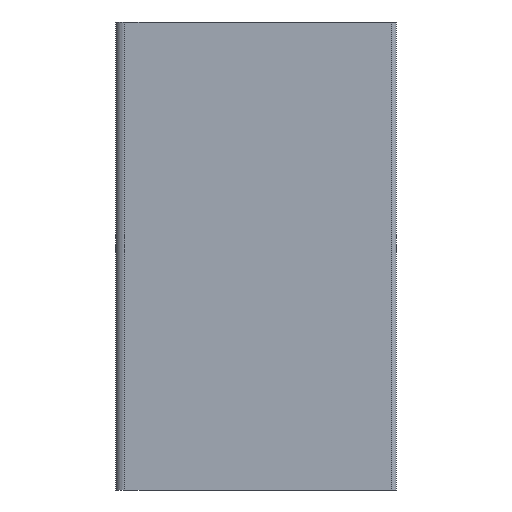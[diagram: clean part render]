
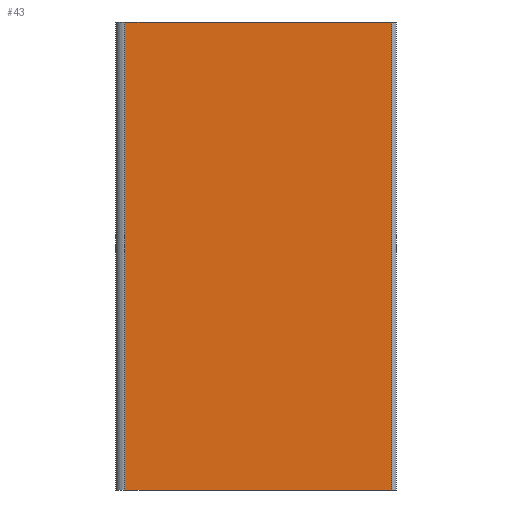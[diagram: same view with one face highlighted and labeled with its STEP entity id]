
A CAD part, left-side view. The second image highlights one B-rep face of the part: STEP entity #43.
In plain terms, the highlighted planar face has unit normal (-1, 0, 0).
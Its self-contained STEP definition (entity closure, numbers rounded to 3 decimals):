
#32 = DIRECTION ( 'NONE',  ( 0., 0., -1. ) ) ;
#43 = ADVANCED_FACE ( 'NONE', ( #260 ), #66, .F. ) ;
#44 = DIRECTION ( 'NONE',  ( 0., 0., -1. ) ) ;
#66 = PLANE ( 'NONE',  #365 ) ;
#74 = CARTESIAN_POINT ( 'NONE',  ( 144.826, 216.258, 0. ) ) ;
#98 = ORIENTED_EDGE ( 'NONE', *, *, #631, .T. ) ;
#104 = VECTOR ( 'NONE', #44, 1000. ) ;
#138 = DIRECTION ( 'NONE',  ( 1., 0., 0. ) ) ;
#199 = CARTESIAN_POINT ( 'NONE',  ( 144.826, 216.258, 0. ) ) ;
#200 = CARTESIAN_POINT ( 'NONE',  ( 144.826, 273.258, 100. ) ) ;
#216 = LINE ( 'NONE', #291, #608 ) ;
#218 = CARTESIAN_POINT ( 'NONE',  ( 144.826, 216.258, 100. ) ) ;
#230 = VECTOR ( 'NONE', #294, 1000. ) ;
#260 = FACE_OUTER_BOUND ( 'NONE', #286, .T. ) ;
#267 = EDGE_CURVE ( 'NONE', #359, #323, #438, .T. ) ;
#286 = EDGE_LOOP ( 'NONE', ( #431, #588, #536, #98 ) ) ;
#289 = CARTESIAN_POINT ( 'NONE',  ( 144.826, 273.258, 0. ) ) ;
#291 = CARTESIAN_POINT ( 'NONE',  ( 144.826, 216.258, 100. ) ) ;
#294 = DIRECTION ( 'NONE',  ( 0., -1., 0. ) ) ;
#323 = VERTEX_POINT ( 'NONE', #74 ) ;
#359 = VERTEX_POINT ( 'NONE', #289 ) ;
#365 = AXIS2_PLACEMENT_3D ( 'NONE', #218, #138, #527 ) ;
#369 = EDGE_CURVE ( 'NONE', #519, #532, #518, .T. ) ;
#402 = DIRECTION ( 'NONE',  ( 0., -1., 0. ) ) ;
#431 = ORIENTED_EDGE ( 'NONE', *, *, #267, .T. ) ;
#438 = LINE ( 'NONE', #199, #573 ) ;
#448 = CARTESIAN_POINT ( 'NONE',  ( 144.826, 216.258, 100. ) ) ;
#518 = LINE ( 'NONE', #657, #230 ) ;
#519 = VERTEX_POINT ( 'NONE', #655 ) ;
#520 = EDGE_CURVE ( 'NONE', #532, #323, #216, .T. ) ;
#523 = LINE ( 'NONE', #200, #104 ) ;
#527 = DIRECTION ( 'NONE',  ( 0., 0., -1. ) ) ;
#532 = VERTEX_POINT ( 'NONE', #448 ) ;
#536 = ORIENTED_EDGE ( 'NONE', *, *, #369, .F. ) ;
#573 = VECTOR ( 'NONE', #402, 1000. ) ;
#588 = ORIENTED_EDGE ( 'NONE', *, *, #520, .F. ) ;
#608 = VECTOR ( 'NONE', #32, 1000. ) ;
#631 = EDGE_CURVE ( 'NONE', #519, #359, #523, .T. ) ;
#655 = CARTESIAN_POINT ( 'NONE',  ( 144.826, 273.258, 100. ) ) ;
#657 = CARTESIAN_POINT ( 'NONE',  ( 144.826, 216.258, 100. ) ) ;
